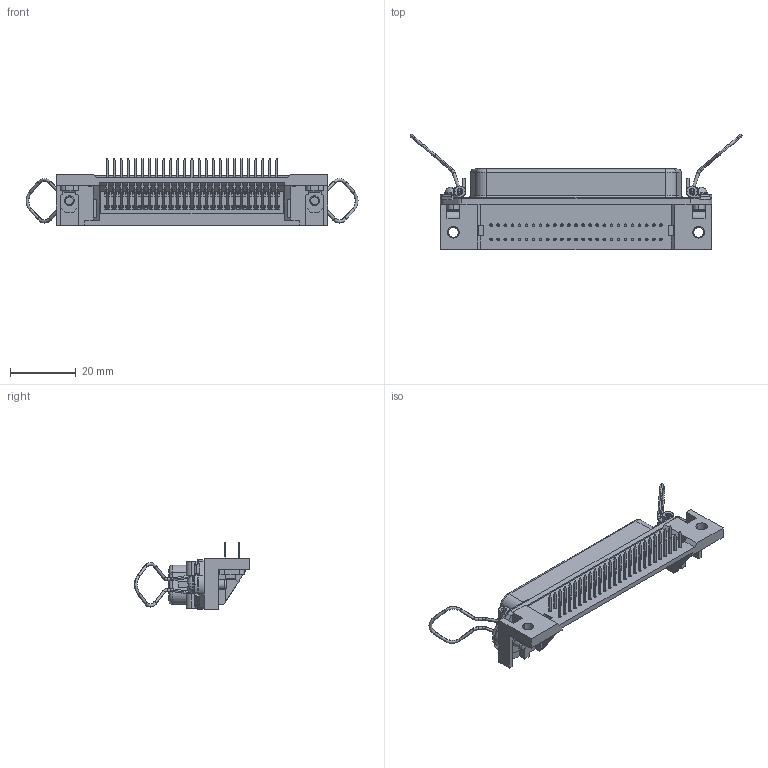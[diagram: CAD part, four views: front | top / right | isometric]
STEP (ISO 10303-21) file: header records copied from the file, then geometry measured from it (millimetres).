
FILE_DESCRIPTION (( 'STEP AP203' ), '1' );
FILE_NAME ('57LE-40500-7700(D12)-FA.STEP', '2021-05-17T02:57:58', ( '' ), ( '' ), 'SwSTEP 2.0', 'SolidWorks 2018', '' );
FILE_SCHEMA (( 'CONFIG_CONTROL_DESIGN' ));
Length unit declared in the file: millimetre
Products named in the file (1): 57LE-40500-7700(D12)-FA
Bounding box: 101.33 x 35.16 x 20.44 mm (x, y, z)
Volume: 12874.3 mm3; surface area: 15880.7 mm2
Topology: 1 solids, 5 shells, 2284 faces, 6367 edges, 4081 vertices
Faces by surface type: plane 1658, cylinder 422, cone 108, torus 68, bspline 28
Entity records: 73226 total; most frequent: CARTESIAN_POINT 13715, ORIENTED_EDGE 12734, DIRECTION 12015, EDGE_CURVE 6367, VECTOR 4957, LINE 4957, VERTEX_POINT 4081, AXIS2_PLACEMENT_3D 3529
